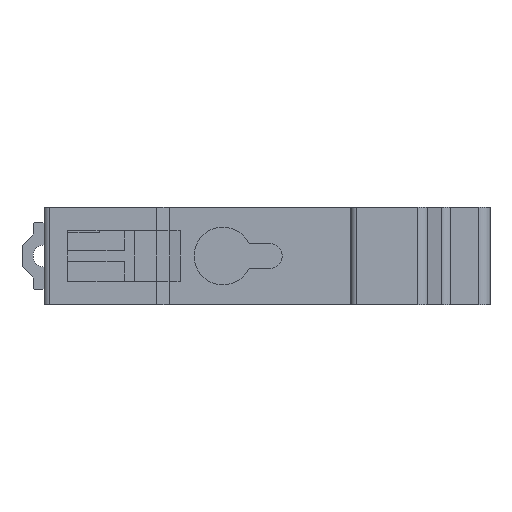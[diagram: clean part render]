
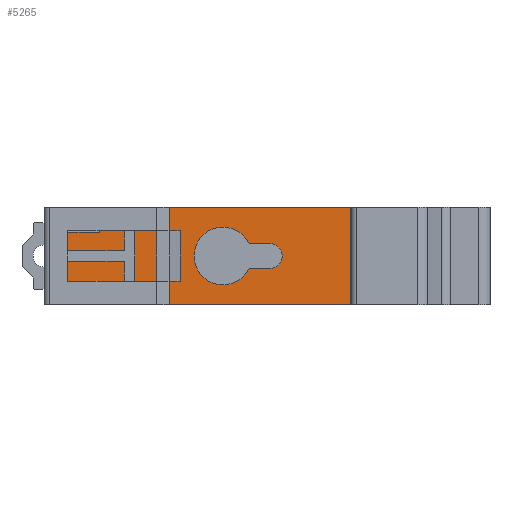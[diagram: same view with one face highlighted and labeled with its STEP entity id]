
A CAD part, front view. The second image highlights one B-rep face of the part: STEP entity #5265.
In plain terms, the highlighted planar face has unit normal (0, -1, 0).
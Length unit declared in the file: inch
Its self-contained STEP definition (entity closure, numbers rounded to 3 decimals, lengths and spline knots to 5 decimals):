
#288=DIRECTION('',(0.,0.,-1.));
#289=VECTOR('',#288,0.35236);
#290=CARTESIAN_POINT('',(0.32677,0.25591,
-0.17717));
#291=LINE('',#290,#289);
#296=DIRECTION('',(-1.,0.,0.));
#297=VECTOR('',#296,0.22805);
#298=CARTESIAN_POINT('',(0.55482,0.25591,
-0.17717));
#299=LINE('',#298,#297);
#304=DIRECTION('',(1.,0.,0.));
#305=VECTOR('',#304,1.39764);
#306=CARTESIAN_POINT('',(1.05315,0.25591,0.));
#307=LINE('',#306,#305);
#308=DIRECTION('',(0.,0.,-1.));
#309=VECTOR('',#308,0.69685);
#310=CARTESIAN_POINT('',(2.45079,0.25591,0.));
#311=LINE('',#310,#309);
#312=DIRECTION('',(-1.,0.,0.));
#313=VECTOR('',#312,1.39764);
#314=CARTESIAN_POINT('',(2.45079,0.25591,
-0.69685));
#315=LINE('',#314,#313);
#316=CARTESIAN_POINT('',(1.77264,0.25591,
-0.34843));
#317=DIRECTION('',(0.,-1.,0.));
#318=DIRECTION('',(0.,0.,-1.));
#319=AXIS2_PLACEMENT_3D('',#316,#317,#318);
#321=CARTESIAN_POINT('',(1.43701,0.25591,
-0.34843));
#322=DIRECTION('',(0.,-1.,0.));
#323=DIRECTION('',(0.906,0.,0.424));
#324=AXIS2_PLACEMENT_3D('',#321,#322,#323);
#326=CARTESIAN_POINT('',(1.43701,0.25591,
-0.34843));
#327=DIRECTION('',(0.,-1.,0.));
#328=DIRECTION('',(-1.,0.,0.));
#329=AXIS2_PLACEMENT_3D('',#326,#327,#328);
#331=DIRECTION('',(0.,0.,-1.));
#332=VECTOR('',#331,0.00984);
#333=CARTESIAN_POINT('',(0.55482,0.25591,
-0.16732));
#334=LINE('',#333,#332);
#411=DIRECTION('',(-1.,0.,0.));
#412=VECTOR('',#411,0.49833);
#413=CARTESIAN_POINT('',(1.05315,0.25591,
-0.16732));
#414=LINE('',#413,#412);
#486=DIRECTION('',(1.,0.,0.));
#487=VECTOR('',#486,0.72638);
#488=CARTESIAN_POINT('',(0.32677,0.25591,
-0.52953));
#489=LINE('',#488,#487);
#531=DIRECTION('',(0.,0.,-1.));
#532=VECTOR('',#531,0.16732);
#533=CARTESIAN_POINT('',(1.05315,0.25591,
-0.52953));
#534=LINE('',#533,#532);
#3224=DIRECTION('',(0.,0.,-1.));
#3225=VECTOR('',#3224,0.16732);
#3226=CARTESIAN_POINT('',(1.05315,0.25591,0.));
#3227=LINE('',#3226,#3225);
#3645=DIRECTION('',(-1.,0.,0.));
#3646=VECTOR('',#3645,0.14842);
#3647=CARTESIAN_POINT('',(1.77264,0.25591,
-0.43602));
#3648=LINE('',#3647,#3646);
#3661=DIRECTION('',(1.,0.,0.));
#3662=VECTOR('',#3661,0.14842);
#3663=CARTESIAN_POINT('',(1.62422,0.25591,
-0.26083));
#3664=LINE('',#3663,#3662);
#3775=CARTESIAN_POINT('',(2.45079,0.25591,0.));
#3776=VERTEX_POINT('',#3775);
#3777=CARTESIAN_POINT('',(1.05315,0.25591,0.));
#3778=VERTEX_POINT('',#3777);
#3955=CARTESIAN_POINT('',(1.05315,0.25591,
-0.69685));
#3956=VERTEX_POINT('',#3955);
#3957=CARTESIAN_POINT('',(2.45079,0.25591,
-0.69685));
#3958=VERTEX_POINT('',#3957);
#4089=CARTESIAN_POINT('',(1.77264,0.25591,
-0.43602));
#4090=CARTESIAN_POINT('',(1.77264,0.25591,
-0.26083));
#4091=VERTEX_POINT('',#4089);
#4092=VERTEX_POINT('',#4090);
#4093=CARTESIAN_POINT('',(1.62422,0.25591,
-0.26083));
#4094=VERTEX_POINT('',#4093);
#4095=CARTESIAN_POINT('',(1.23031,0.25591,
-0.34843));
#4096=VERTEX_POINT('',#4095);
#4097=CARTESIAN_POINT('',(1.62422,0.25591,
-0.43602));
#4098=VERTEX_POINT('',#4097);
#4099=CARTESIAN_POINT('',(0.55482,0.25591,
-0.17717));
#4100=CARTESIAN_POINT('',(0.32677,0.25591,
-0.17717));
#4101=VERTEX_POINT('',#4099);
#4102=VERTEX_POINT('',#4100);
#4103=CARTESIAN_POINT('',(0.55482,0.25591,
-0.16732));
#4104=VERTEX_POINT('',#4103);
#4105=CARTESIAN_POINT('',(1.05315,0.25591,
-0.16732));
#4106=VERTEX_POINT('',#4105);
#4107=CARTESIAN_POINT('',(0.32677,0.25591,
-0.52953));
#4108=CARTESIAN_POINT('',(1.05315,0.25591,
-0.52953));
#4109=VERTEX_POINT('',#4107);
#4110=VERTEX_POINT('',#4108);
#5229=CARTESIAN_POINT('',(1.38878,0.25591,
-0.34843));
#5230=DIRECTION('',(0.,1.,0.));
#5231=DIRECTION('',(-1.,0.,0.));
#5232=AXIS2_PLACEMENT_3D('',#5229,#5230,#5231);
#5233=PLANE('',#5232);
#5234=ORIENTED_EDGE('',*,*,#5209,.F.);
#5236=ORIENTED_EDGE('',*,*,#5235,.F.);
#5238=ORIENTED_EDGE('',*,*,#5237,.F.);
#5240=ORIENTED_EDGE('',*,*,#5239,.F.);
#5241=ORIENTED_EDGE('',*,*,#4877,.T.);
#5243=ORIENTED_EDGE('',*,*,#5242,.T.);
#5245=ORIENTED_EDGE('',*,*,#5244,.T.);
#5247=ORIENTED_EDGE('',*,*,#5246,.F.);
#5249=ORIENTED_EDGE('',*,*,#5248,.F.);
#5250=ORIENTED_EDGE('',*,*,#5182,.F.);
#5251=EDGE_LOOP('',(#5234,#5236,#5238,#5240,#5241,#5243,#5245,#5247,#5249,
#5250));
#5252=FACE_OUTER_BOUND('',#5251,.F.);
#5254=ORIENTED_EDGE('',*,*,#5253,.T.);
#5256=ORIENTED_EDGE('',*,*,#5255,.F.);
#5258=ORIENTED_EDGE('',*,*,#5257,.T.);
#5260=ORIENTED_EDGE('',*,*,#5259,.T.);
#5262=ORIENTED_EDGE('',*,*,#5261,.F.);
#5263=EDGE_LOOP('',(#5254,#5256,#5258,#5260,#5262));
#5264=FACE_BOUND('',#5263,.F.);
#5265=ADVANCED_FACE('',(#5252,#5264),#5233,.F.);
#320=CIRCLE('',#319,0.0876);
#325=CIRCLE('',#324,0.20669);
#330=CIRCLE('',#329,0.20669);
#4877=EDGE_CURVE('',#3778,#3776,#307,.T.);
#5182=EDGE_CURVE('',#4102,#4109,#291,.T.);
#5209=EDGE_CURVE('',#4101,#4102,#299,.T.);
#5235=EDGE_CURVE('',#4104,#4101,#334,.T.);
#5237=EDGE_CURVE('',#4106,#4104,#414,.T.);
#5239=EDGE_CURVE('',#3778,#4106,#3227,.T.);
#5242=EDGE_CURVE('',#3776,#3958,#311,.T.);
#5244=EDGE_CURVE('',#3958,#3956,#315,.T.);
#5246=EDGE_CURVE('',#4110,#3956,#534,.T.);
#5248=EDGE_CURVE('',#4109,#4110,#489,.T.);
#5253=EDGE_CURVE('',#4091,#4092,#320,.T.);
#5255=EDGE_CURVE('',#4094,#4092,#3664,.T.);
#5257=EDGE_CURVE('',#4094,#4096,#325,.T.);
#5259=EDGE_CURVE('',#4096,#4098,#330,.T.);
#5261=EDGE_CURVE('',#4091,#4098,#3648,.T.);
